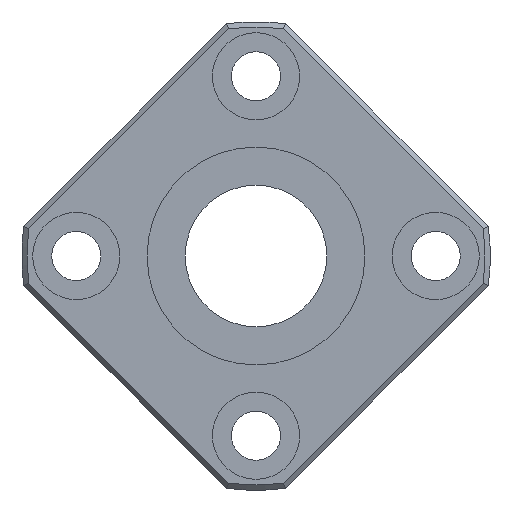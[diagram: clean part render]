
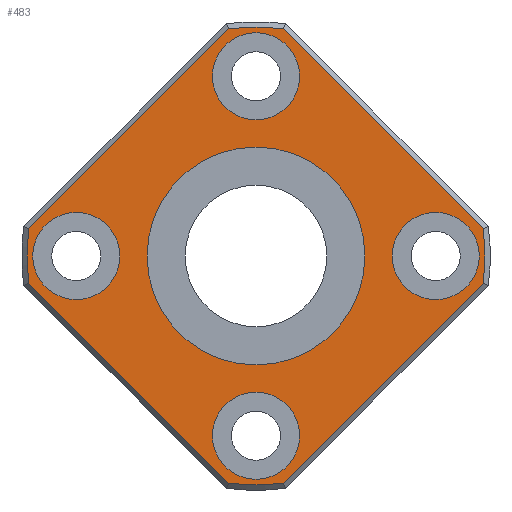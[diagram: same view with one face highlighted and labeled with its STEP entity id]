
A CAD part, left-side view. The second image highlights one B-rep face of the part: STEP entity #483.
In plain terms, the highlighted planar face has unit normal (-1, 0, 0).
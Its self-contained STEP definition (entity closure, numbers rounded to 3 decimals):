
#59=CARTESIAN_POINT('',(0.0,2.482,-20.853));
#60=VERTEX_POINT('',#59);
#68=CARTESIAN_POINT('',(0.0,20.853,-2.482));
#69=VERTEX_POINT('',#68);
#70=CARTESIAN_POINT('',(0.0,2.482,-20.853));
#71=DIRECTION('',(0.0,0.707,0.707));
#72=VECTOR('',#71,25.981);
#73=LINE('',#70,#72);
#74=EDGE_CURVE('',#60,#69,#73,.T.);
#101=CARTESIAN_POINT('',(0.0,20.853,2.482));
#102=VERTEX_POINT('',#101);
#103=CARTESIAN_POINT('',(0.0,0.0,0.0));
#104=DIRECTION('',(1.0,0.0,0.0));
#105=DIRECTION('',(0.0,0.0,1.0));
#106=AXIS2_PLACEMENT_3D('',#103,#104,#105);
#107=CIRCLE('',#106,21.0);
#108=EDGE_CURVE('',#69,#102,#107,.T.);
#134=CARTESIAN_POINT('',(0.0,2.482,20.853));
#135=VERTEX_POINT('',#134);
#136=CARTESIAN_POINT('',(0.0,20.853,2.482));
#137=DIRECTION('',(0.0,-0.707,0.707));
#138=VECTOR('',#137,25.981);
#139=LINE('',#136,#138);
#140=EDGE_CURVE('',#102,#135,#139,.T.);
#167=CARTESIAN_POINT('',(0.0,-2.482,20.853));
#168=VERTEX_POINT('',#167);
#169=CARTESIAN_POINT('',(0.0,0.0,0.0));
#170=DIRECTION('',(1.0,0.0,0.0));
#171=DIRECTION('',(0.0,0.0,1.0));
#172=AXIS2_PLACEMENT_3D('',#169,#170,#171);
#173=CIRCLE('',#172,21.0);
#174=EDGE_CURVE('',#135,#168,#173,.T.);
#200=CARTESIAN_POINT('',(0.0,-20.853,2.482));
#201=VERTEX_POINT('',#200);
#202=CARTESIAN_POINT('',(0.0,-2.482,20.853));
#203=DIRECTION('',(0.0,-0.707,-0.707));
#204=VECTOR('',#203,25.981);
#205=LINE('',#202,#204);
#206=EDGE_CURVE('',#168,#201,#205,.T.);
#233=CARTESIAN_POINT('',(0.0,-20.853,-2.482));
#234=VERTEX_POINT('',#233);
#235=CARTESIAN_POINT('',(0.0,0.0,0.0));
#236=DIRECTION('',(1.0,0.0,0.0));
#237=DIRECTION('',(0.0,0.0,1.0));
#238=AXIS2_PLACEMENT_3D('',#235,#236,#237);
#239=CIRCLE('',#238,21.0);
#240=EDGE_CURVE('',#201,#234,#239,.T.);
#266=CARTESIAN_POINT('',(0.0,-2.482,-20.853));
#267=VERTEX_POINT('',#266);
#268=CARTESIAN_POINT('',(0.0,-20.853,-2.482));
#269=DIRECTION('',(0.0,0.707,-0.707));
#270=VECTOR('',#269,25.981);
#271=LINE('',#268,#270);
#272=EDGE_CURVE('',#234,#267,#271,.T.);
#297=CARTESIAN_POINT('',(0.0,0.0,0.0));
#298=DIRECTION('',(1.0,0.0,0.0));
#299=DIRECTION('',(0.0,0.0,-1.0));
#300=AXIS2_PLACEMENT_3D('',#297,#298,#299);
#301=CIRCLE('',#300,21.0);
#302=EDGE_CURVE('',#267,#60,#301,.T.);
#413=CARTESIAN_POINT('',(0.0,0.0,10.75));
#414=DIRECTION('',(-1.0,0.0,0.0));
#415=DIRECTION('',(0.0,0.0,1.0));
#416=AXIS2_PLACEMENT_3D('',#413,#414,#415);
#417=PLANE('',#416);
#418=ORIENTED_EDGE('',*,*,#74,.F.);
#419=ORIENTED_EDGE('',*,*,#302,.F.);
#420=ORIENTED_EDGE('',*,*,#272,.F.);
#421=ORIENTED_EDGE('',*,*,#240,.F.);
#422=ORIENTED_EDGE('',*,*,#206,.F.);
#423=ORIENTED_EDGE('',*,*,#174,.F.);
#424=ORIENTED_EDGE('',*,*,#140,.F.);
#425=ORIENTED_EDGE('',*,*,#108,.F.);
#426=EDGE_LOOP('',(#418,#419,#420,#421,#422,#423,#424,#425));
#427=FACE_OUTER_BOUND('',#426,.T.);
#428=CARTESIAN_POINT('',(0.0,0.0,10.));
#429=VERTEX_POINT('',#428);
#430=CARTESIAN_POINT('',(0.0,0.0,0.0));
#431=DIRECTION('',(-1.0,0.0,0.0));
#432=DIRECTION('',(0.0,0.0,1.0));
#433=AXIS2_PLACEMENT_3D('',#430,#431,#432);
#434=CIRCLE('',#433,10.);
#435=EDGE_CURVE('',#429,#429,#434,.T.);
#436=ORIENTED_EDGE('',*,*,#435,.F.);
#437=EDGE_LOOP('',(#436));
#438=FACE_BOUND('',#437,.T.);
#439=CARTESIAN_POINT('',(0.0,-12.5,0.));
#440=VERTEX_POINT('',#439);
#441=CARTESIAN_POINT('',(0.0,-16.5,0.));
#442=DIRECTION('',(1.0,0.0,0.0));
#443=DIRECTION('',(0.0,1.0,0.0));
#444=AXIS2_PLACEMENT_3D('',#441,#442,#443);
#445=CIRCLE('',#444,4.0);
#446=EDGE_CURVE('',#440,#440,#445,.T.);
#447=ORIENTED_EDGE('',*,*,#446,.T.);
#448=EDGE_LOOP('',(#447));
#449=FACE_BOUND('',#448,.T.);
#450=CARTESIAN_POINT('',(0.0,20.5,0.));
#451=VERTEX_POINT('',#450);
#452=CARTESIAN_POINT('',(0.0,16.5,0.));
#453=DIRECTION('',(1.0,0.0,0.0));
#454=DIRECTION('',(0.0,1.0,0.0));
#455=AXIS2_PLACEMENT_3D('',#452,#453,#454);
#456=CIRCLE('',#455,4.0);
#457=EDGE_CURVE('',#451,#451,#456,.T.);
#458=ORIENTED_EDGE('',*,*,#457,.T.);
#459=EDGE_LOOP('',(#458));
#460=FACE_BOUND('',#459,.T.);
#461=CARTESIAN_POINT('',(0.0,4.,16.5));
#462=VERTEX_POINT('',#461);
#463=CARTESIAN_POINT('',(0.0,0.,16.5));
#464=DIRECTION('',(1.0,0.0,0.0));
#465=DIRECTION('',(0.0,1.0,0.0));
#466=AXIS2_PLACEMENT_3D('',#463,#464,#465);
#467=CIRCLE('',#466,4.0);
#468=EDGE_CURVE('',#462,#462,#467,.T.);
#469=ORIENTED_EDGE('',*,*,#468,.T.);
#470=EDGE_LOOP('',(#469));
#471=FACE_BOUND('',#470,.T.);
#472=CARTESIAN_POINT('',(0.0,4.,-16.5));
#473=VERTEX_POINT('',#472);
#474=CARTESIAN_POINT('',(0.0,0.,-16.5));
#475=DIRECTION('',(1.0,0.0,0.0));
#476=DIRECTION('',(0.0,1.0,0.0));
#477=AXIS2_PLACEMENT_3D('',#474,#475,#476);
#478=CIRCLE('',#477,4.0);
#479=EDGE_CURVE('',#473,#473,#478,.T.);
#480=ORIENTED_EDGE('',*,*,#479,.T.);
#481=EDGE_LOOP('',(#480));
#482=FACE_BOUND('',#481,.T.);
#483=ADVANCED_FACE('',(#427,#438,#449,#460,#471,#482),#417,.T.);
